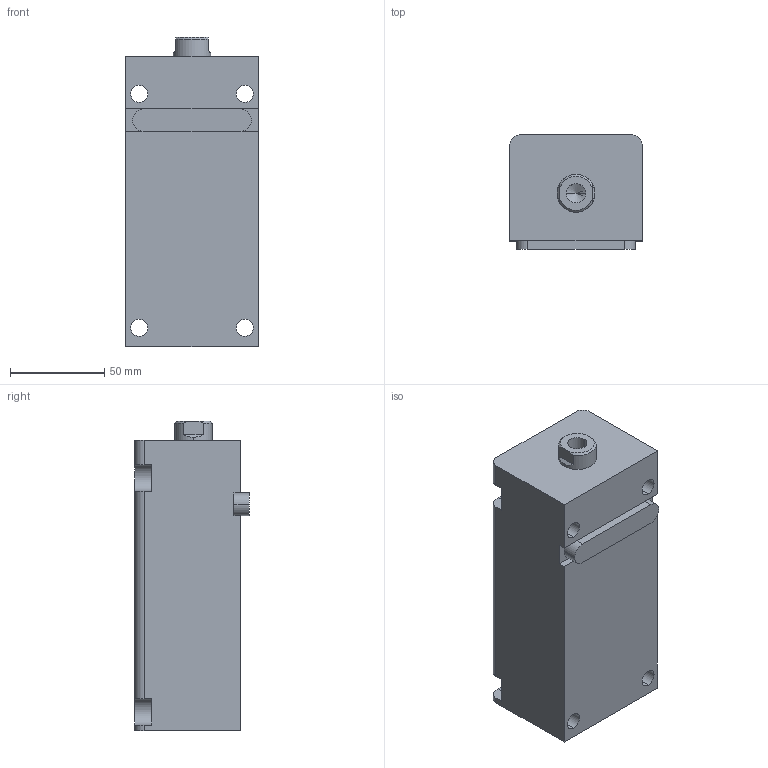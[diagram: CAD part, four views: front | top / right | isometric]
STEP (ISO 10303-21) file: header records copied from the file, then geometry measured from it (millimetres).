
FILE_DESCRIPTION (( 'STEP AP203' ), '1' );
FILE_NAME ('HTB-LA32-100N.STEP', '2019-10-09T06:33:13', ( '微软用户' ), ( '微软中国' ), 'SwSTEP 2.0', 'SolidWorks 2012', '' );
FILE_SCHEMA (( 'CONFIG_CONTROL_DESIGN' ));
Length unit declared in the file: millimetre
Products named in the file (4): HTB-LA32-100N; HTB-LA32-100掛极; HTB-LA32-100N活塞杆; HTB-LA32-瑩
Assembly tree (3 placements, depth 2):
  HTB-LA32-100N
    HTB-LA32-100掛极
    HTB-LA32-100N活塞杆
    HTB-LA32-瑩
Bounding box: 70 x 60.5 x 164 mm (x, y, z)
Volume: 537565.8 mm3; surface area: 82106.7 mm2
Topology: 3 solids, 3 shells, 88 faces, 217 edges, 141 vertices
Faces by surface type: plane 39, cylinder 35, cone 8, torus 6
Entity records: 3053 total; most frequent: DIRECTION 487, CARTESIAN_POINT 478, ORIENTED_EDGE 430, EDGE_CURVE 215, AXIS2_PLACEMENT_3D 186, VERTEX_POINT 141, LINE 115, VECTOR 115
